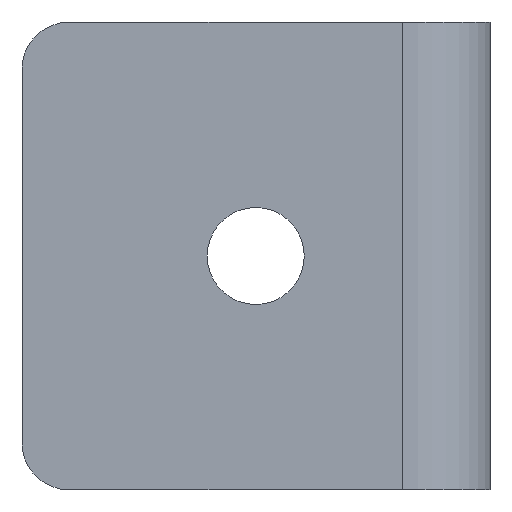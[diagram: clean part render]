
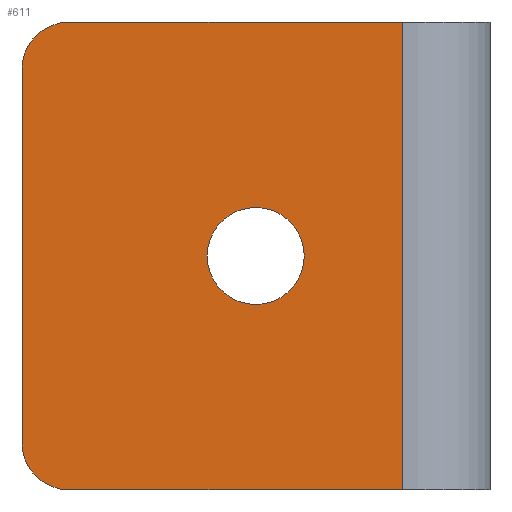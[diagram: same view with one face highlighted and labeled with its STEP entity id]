
A CAD part, left-side view. The second image highlights one B-rep face of the part: STEP entity #611.
In plain terms, the highlighted planar face has unit normal (-1, 0, 0).
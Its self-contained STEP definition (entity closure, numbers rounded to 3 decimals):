
#7 = EDGE_CURVE ( 'NONE', #148, #742, #556, .T. ) ;
#14 = AXIS2_PLACEMENT_3D ( 'NONE', #499, #508, #640 ) ;
#17 = DIRECTION ( 'NONE',  ( 0., 0., -1. ) ) ;
#32 = CARTESIAN_POINT ( 'NONE',  ( -4.849, 35.049, 20. ) ) ;
#34 = VERTEX_POINT ( 'NONE', #255 ) ;
#39 = VECTOR ( 'NONE', #17, 1000. ) ;
#40 = CIRCLE ( 'NONE', #563, 4.15 ) ;
#50 = CARTESIAN_POINT ( 'NONE',  ( -4.849, 2.5, -20. ) ) ;
#63 = CARTESIAN_POINT ( 'NONE',  ( -4.849, 15.049, -4.15 ) ) ;
#72 = ORIENTED_EDGE ( 'NONE', *, *, #493, .T. ) ;
#73 = CARTESIAN_POINT ( 'NONE',  ( -4.849, 35.049, 20. ) ) ;
#89 = EDGE_LOOP ( 'NONE', ( #355, #516 ) ) ;
#94 = EDGE_CURVE ( 'NONE', #650, #575, #274, .T. ) ;
#116 = EDGE_LOOP ( 'NONE', ( #468, #754, #150, #261, #72, #422 ) ) ;
#130 = CARTESIAN_POINT ( 'NONE',  ( -4.849, 2.5, 20. ) ) ;
#131 = CARTESIAN_POINT ( 'NONE',  ( -4.849, 31.049, 16. ) ) ;
#148 = VERTEX_POINT ( 'NONE', #624 ) ;
#150 = ORIENTED_EDGE ( 'NONE', *, *, #94, .T. ) ;
#158 = DIRECTION ( 'NONE',  ( -1., 0., 0. ) ) ;
#167 = DIRECTION ( 'NONE',  ( 1., 0., 0. ) ) ;
#168 = EDGE_CURVE ( 'NONE', #34, #742, #277, .T. ) ;
#255 = CARTESIAN_POINT ( 'NONE',  ( -4.849, 31.049, -20. ) ) ;
#261 = ORIENTED_EDGE ( 'NONE', *, *, #438, .T. ) ;
#262 = DIRECTION ( 'NONE',  ( 0., -1., 0. ) ) ;
#274 = CIRCLE ( 'NONE', #779, 4. ) ;
#277 = LINE ( 'NONE', #392, #489 ) ;
#282 = CARTESIAN_POINT ( 'NONE',  ( -4.849, 35.049, -16. ) ) ;
#303 = CARTESIAN_POINT ( 'NONE',  ( -4.849, 31.049, 20. ) ) ;
#304 = DIRECTION ( 'NONE',  ( 1., 0., 0. ) ) ;
#339 = VERTEX_POINT ( 'NONE', #63 ) ;
#345 = CARTESIAN_POINT ( 'NONE',  ( -4.849, 35.049, 20. ) ) ;
#347 = EDGE_CURVE ( 'NONE', #694, #339, #40, .T. ) ;
#355 = ORIENTED_EDGE ( 'NONE', *, *, #678, .T. ) ;
#368 = VERTEX_POINT ( 'NONE', #282 ) ;
#370 = CARTESIAN_POINT ( 'NONE',  ( -4.849, 15.049, 0. ) ) ;
#381 = DIRECTION ( 'NONE',  ( 0., 0., 1. ) ) ;
#392 = CARTESIAN_POINT ( 'NONE',  ( -4.849, 35.049, -20. ) ) ;
#410 = DIRECTION ( 'NONE',  ( 0., 0., 1. ) ) ;
#421 = CIRCLE ( 'NONE', #14, 4.15 ) ;
#422 = ORIENTED_EDGE ( 'NONE', *, *, #168, .T. ) ;
#435 = FACE_BOUND ( 'NONE', #89, .T. ) ;
#438 = EDGE_CURVE ( 'NONE', #575, #368, #568, .T. ) ;
#441 = VECTOR ( 'NONE', #648, 1000. ) ;
#452 = VECTOR ( 'NONE', #595, 1000. ) ;
#468 = ORIENTED_EDGE ( 'NONE', *, *, #7, .F. ) ;
#485 = DIRECTION ( 'NONE',  ( 0., 0., 1. ) ) ;
#489 = VECTOR ( 'NONE', #262, 1000. ) ;
#493 = EDGE_CURVE ( 'NONE', #368, #34, #533, .T. ) ;
#499 = CARTESIAN_POINT ( 'NONE',  ( -4.849, 15.049, 0. ) ) ;
#508 = DIRECTION ( 'NONE',  ( 1., 0., 0. ) ) ;
#516 = ORIENTED_EDGE ( 'NONE', *, *, #347, .T. ) ;
#520 = AXIS2_PLACEMENT_3D ( 'NONE', #73, #304, #485 ) ;
#521 = EDGE_CURVE ( 'NONE', #650, #148, #785, .T. ) ;
#533 = CIRCLE ( 'NONE', #542, 4. ) ;
#542 = AXIS2_PLACEMENT_3D ( 'NONE', #716, #158, #410 ) ;
#544 = CARTESIAN_POINT ( 'NONE',  ( -4.849, 35.049, 16. ) ) ;
#556 = LINE ( 'NONE', #130, #39 ) ;
#563 = AXIS2_PLACEMENT_3D ( 'NONE', #370, #167, #597 ) ;
#568 = LINE ( 'NONE', #32, #441 ) ;
#575 = VERTEX_POINT ( 'NONE', #544 ) ;
#595 = DIRECTION ( 'NONE',  ( 0., -1., 0. ) ) ;
#597 = DIRECTION ( 'NONE',  ( 0., 0., 1. ) ) ;
#610 = PLANE ( 'NONE',  #520 ) ;
#611 = ADVANCED_FACE ( 'NONE', ( #741, #435 ), #610, .F. ) ;
#612 = DIRECTION ( 'NONE',  ( -1., 0., 0. ) ) ;
#624 = CARTESIAN_POINT ( 'NONE',  ( -4.849, 2.5, 20. ) ) ;
#640 = DIRECTION ( 'NONE',  ( 0., 0., 1. ) ) ;
#648 = DIRECTION ( 'NONE',  ( 0., 0., -1. ) ) ;
#650 = VERTEX_POINT ( 'NONE', #303 ) ;
#678 = EDGE_CURVE ( 'NONE', #339, #694, #421, .T. ) ;
#694 = VERTEX_POINT ( 'NONE', #757 ) ;
#716 = CARTESIAN_POINT ( 'NONE',  ( -4.849, 31.049, -16. ) ) ;
#741 = FACE_OUTER_BOUND ( 'NONE', #116, .T. ) ;
#742 = VERTEX_POINT ( 'NONE', #50 ) ;
#754 = ORIENTED_EDGE ( 'NONE', *, *, #521, .F. ) ;
#757 = CARTESIAN_POINT ( 'NONE',  ( -4.849, 15.049, 4.15 ) ) ;
#779 = AXIS2_PLACEMENT_3D ( 'NONE', #131, #612, #381 ) ;
#785 = LINE ( 'NONE', #345, #452 ) ;
